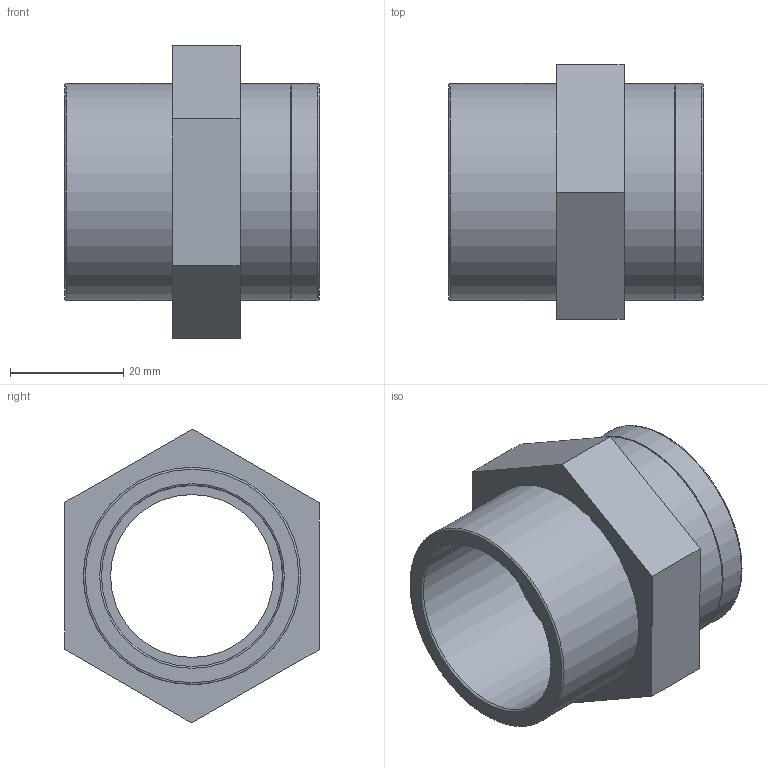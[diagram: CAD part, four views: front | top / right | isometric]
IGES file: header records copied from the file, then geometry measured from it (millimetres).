
Global section: file name: 057102032010.ipt; native system: Autodesk Inventor 2015; preprocessor: unknown; author: KIM; date: 20171207.165807; units: millimetre
Bounding box: 45 x 45.07 x 51.96 mm (x, y, z)
Volume: 25190.9 mm3; surface area: 12392.4 mm2
Topology: 1 solids, 1 shells, 24 faces, 61 edges, 43 vertices
Faces by surface type: plane 12, revolution 7, cylinder 3, cone 2
Full cylindrical faces by diameter (mm): 38.4 x3
